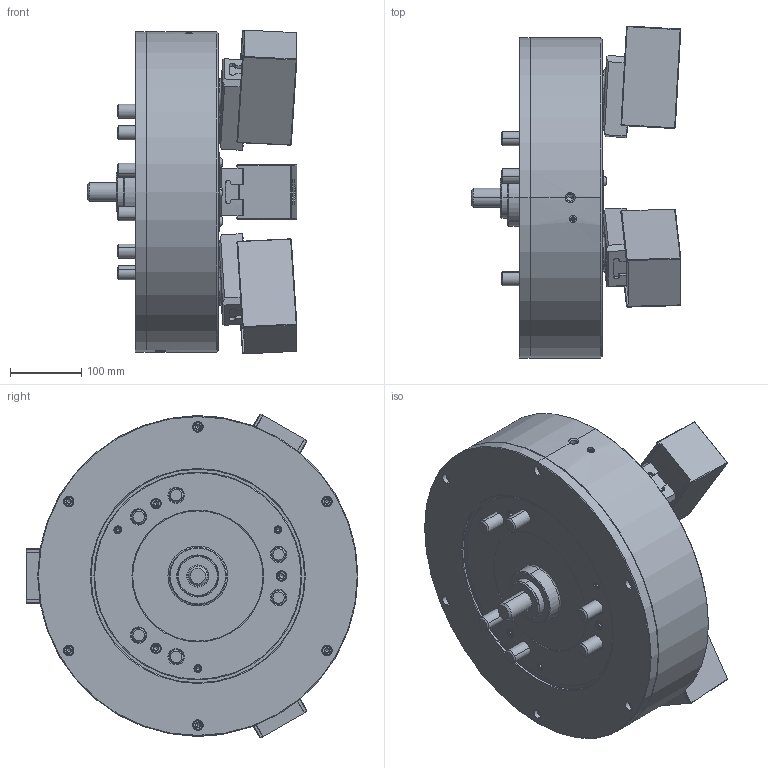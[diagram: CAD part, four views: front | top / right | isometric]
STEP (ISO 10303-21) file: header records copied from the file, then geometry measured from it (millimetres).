
FILE_DESCRIPTION (( 'STEP AP214' ), '1' );
FILE_NAME ('PW-18_UC_ID.STEP', '2024-02-07T07:34:23', ( '' ), ( '' ), 'SwSTEP 2.0', 'SolidWorks 2022', '' );
FILE_SCHEMA (( 'AUTOMOTIVE_DESIGN' ));
Length unit declared in the file: millimetre
Products named in the file (9): 0033108012; PW-18_UC_ID; 0030120030; 61P422878; 0030127150; 61P326096; PW-18_結合_ID; 61P422887; 0030120120
Assembly tree (24 placements, depth 2):
  PW-18_UC_ID
    61P422887
    0030120120  x6
    0030127150
    0033108012  x3
    61P326096  x3
    61P422878  x3
    0030120030  x6
    PW-18_結合_ID
Bounding box: 294.68 x 466.37 x 455.17 mm (x, y, z)
Volume: 21086362.3 mm3; surface area: 1020310.9 mm2
Topology: 24 solids, 27 shells, 3956 faces, 10330 edges, 6697 vertices
Faces by surface type: plane 1961, bspline 960, cone 554, cylinder 441, torus 32, sphere 8
Entity records: 144782 total; most frequent: CARTESIAN_POINT 62923, ORIENTED_EDGE 18740, DIRECTION 13223, EDGE_CURVE 9370, VERTEX_POINT 6137, LINE 5567, VECTOR 5567, EDGE_LOOP 3903
